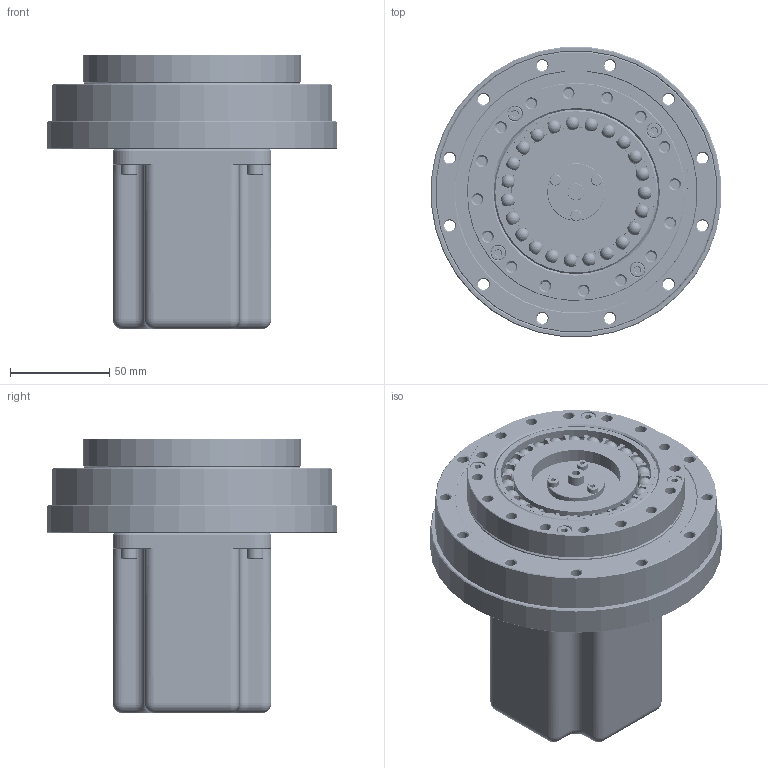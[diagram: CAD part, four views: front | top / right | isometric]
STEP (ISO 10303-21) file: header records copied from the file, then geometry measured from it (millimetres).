
FILE_DESCRIPTION(/* description */ (''),/* implementation_level */ '2;1');
FILE_NAME(/* name */ 'XBF32配80伺服电机安装方案.prt.step',/* time_stamp */ '2023-01-05T11:01:19+08:00',/* author */ (''),/* organization */ (''),/* preprocessor_version */ 'ST-DEVELOPER v16',/* originating_system */ 'SIEMENS PLM Software NX 10.0',/* authorisation */ '');
FILE_SCHEMA (('AUTOMOTIVE_DESIGN { 1 0 10303 214 3 1 1 1 }'));
Products named in the file (21): 32柔性轴承保持架(日标）; XBK32-4-1-1销子; M4X10; XBK32-1钢轮; XBK32-4-1内芯; G1101226; XBK32-4-2外圈; O型圈75X2; O型圈117.5X1.8; M5X14; M3X 8; M5X16; XBF32-3-2凸轮压板; YS32-3-1凸轮; YM4X8; 平键销6X18; XBF32-5电机安装法兰; 80  750W 磁编; 32柔性轴承(日标）_MODEL; XBF32成品图_MODEL; XBF32配80伺服电机安装方案
Assembly tree (32 placements, depth 4):
  XBF32配80伺服电机安装方案
    80  750W 磁编
    XBF32成品图_MODEL
      XBK32-4-2外圈
      G1101226
      XBK32-4-1内芯
      XBK32-1钢轮
      M4X10  x4
      XBK32-4-1-1销子
      M3X 8
      32柔性轴承(日标）_MODEL
        32柔性轴承保持架(日标）
    XBF32-5电机安装法兰
    平键销6X18
    YM4X8  x4
    YS32-3-1凸轮
    XBF32-3-2凸轮压板
    M5X16
    M3X 8  x3
    M5X14  x4
    O型圈117.5X1.8
    O型圈75X2
Bounding box: 146.44 x 146.44 x 138.5 mm (x, y, z)
Volume: 934196.5 mm3; surface area: 273824.9 mm2
Topology: 52 solids, 56 shells, 1438 faces, 3675 edges, 2392 vertices
Faces by surface type: plane 536, cylinder 448, cone 226, bspline 133, extrusion 48, sphere 31, torus 16
Full cylindrical faces by diameter (mm): 2.5 x3, 3.5 x4, 4 x44, 4.2 x28, 4.5 x8, 5 x55, 5.5 x53, 5.6 x4, 6 x1, 6.2 x4, 7.22 x4, 7.5 x8, 8 x4, 8.5 x5, 19 x2, 29 x1, 30 x1, 45 x1, 56 x1, 58.928 x1, 62 x2, 63.028 x2, 65.3 x1, 68.95 x1, 70 x2, 74.3 x1, 74.4 x1, 75.856 x2, 79.7 x1, 79.756 x2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
Entity records: 131216 total; most frequent: CARTESIAN_POINT 107460, DIRECTION 4391, ORIENTED_EDGE 4362, EDGE_CURVE 2181, AXIS2_PLACEMENT_3D 1803, EDGE_LOOP 1607, VERTEX_POINT 1603, ADVANCED_FACE 1063
